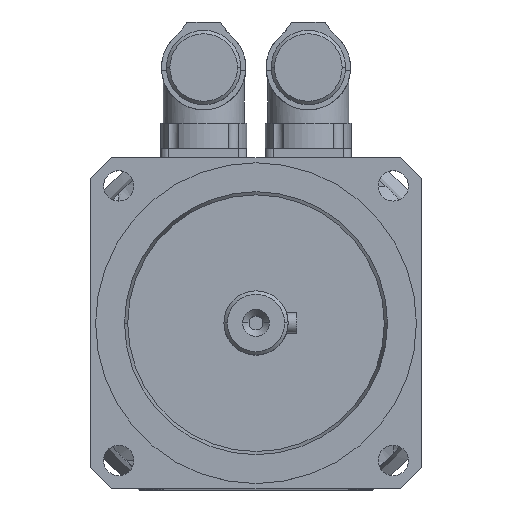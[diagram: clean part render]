
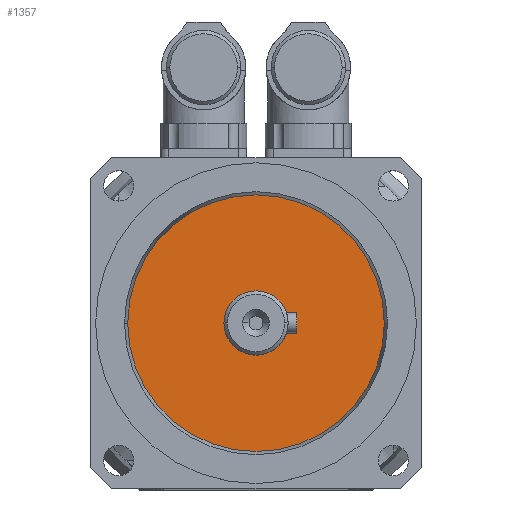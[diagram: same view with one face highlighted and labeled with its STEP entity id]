
A CAD part, top view. The second image highlights one B-rep face of the part: STEP entity #1357.
In plain terms, the highlighted free-form (B-spline) face has degree [1, 1] with [2, 2] control points.
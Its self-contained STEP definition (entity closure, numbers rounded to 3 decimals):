
#1027=CARTESIAN_POINT('',(-9.5,0.,228.5));
#1028=VERTEX_POINT('',#1027);
#1037=CARTESIAN_POINT('',(9.5,0.,228.5));
#1038=VERTEX_POINT('',#1037);
#1039=CARTESIAN_POINT('',(0.0,0.0,228.5));
#1040=DIRECTION('',(0.0,0.0,-1.0));
#1041=DIRECTION('',(-1.0,0.0,0.0));
#1042=AXIS2_PLACEMENT_3D('',#1039,#1040,#1041);
#1043=CIRCLE('',#1042,9.5);
#1044=EDGE_CURVE('',#1038,#1028,#1043,.T.);
#1297=CARTESIAN_POINT('',(38.0,0.0,228.5));
#1298=VERTEX_POINT('',#1297);
#1314=CARTESIAN_POINT('',(-38.0,0.,228.5));
#1315=VERTEX_POINT('',#1314);
#1322=CARTESIAN_POINT('',(0.0,0.0,228.5));
#1323=DIRECTION('',(0.0,0.0,1.0));
#1324=DIRECTION('',(1.0,0.0,0.0));
#1325=AXIS2_PLACEMENT_3D('',#1322,#1323,#1324);
#1326=CIRCLE('',#1325,38.0);
#1327=EDGE_CURVE('',#1298,#1315,#1326,.T.);
#1332=CARTESIAN_POINT('',(-38.0,38.0,228.5));
#1333=CARTESIAN_POINT('',(38.0,38.0,228.5));
#1334=CARTESIAN_POINT('',(-38.0,-38.0,228.5));
#1335=CARTESIAN_POINT('',(38.0,-38.0,228.5));
#1336=B_SPLINE_SURFACE_WITH_KNOTS('',1,1,((#1332,#1334),(#1333,#1335)),.UNSPECIFIED.,.F.,.F.,.U.,(2,2),(2,2),(0.0,76.0),(0.0,76.0),.UNSPECIFIED.);
#1337=ORIENTED_EDGE('',*,*,#1327,.T.);
#1338=CARTESIAN_POINT('',(0.0,0.0,228.5));
#1339=DIRECTION('',(0.0,0.0,1.0));
#1340=DIRECTION('',(1.0,0.0,0.0));
#1341=AXIS2_PLACEMENT_3D('',#1338,#1339,#1340);
#1342=CIRCLE('',#1341,38.0);
#1343=EDGE_CURVE('',#1315,#1298,#1342,.T.);
#1344=ORIENTED_EDGE('',*,*,#1343,.T.);
#1345=EDGE_LOOP('',(#1337,#1344));
#1346=FACE_OUTER_BOUND('',#1345,.T.);
#1347=ORIENTED_EDGE('',*,*,#1044,.T.);
#1348=CARTESIAN_POINT('',(0.0,0.0,228.5));
#1349=DIRECTION('',(0.0,0.0,-1.0));
#1350=DIRECTION('',(-1.0,0.0,0.0));
#1351=AXIS2_PLACEMENT_3D('',#1348,#1349,#1350);
#1352=CIRCLE('',#1351,9.5);
#1353=EDGE_CURVE('',#1028,#1038,#1352,.T.);
#1354=ORIENTED_EDGE('',*,*,#1353,.T.);
#1355=EDGE_LOOP('',(#1347,#1354));
#1356=FACE_BOUND('',#1355,.T.);
#1357=ADVANCED_FACE('',(#1346,#1356),#1336,.F.);
